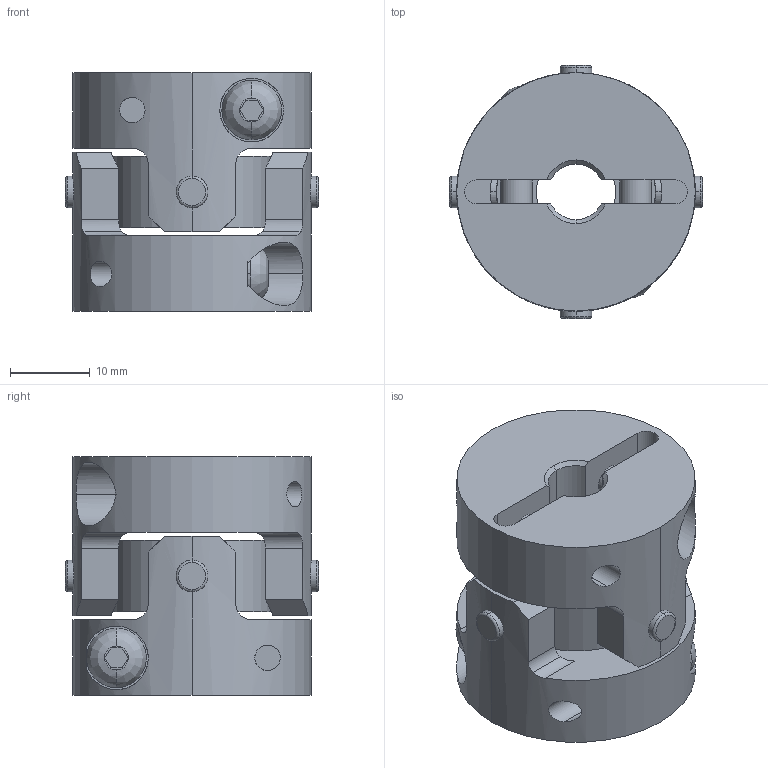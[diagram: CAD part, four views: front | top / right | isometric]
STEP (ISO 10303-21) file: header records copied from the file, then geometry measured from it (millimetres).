
FILE_DESCRIPTION((''),'2;1');
FILE_NAME('UA-30C-7×14.stp','2013-05-21T15:02:37',(''),(''),'AutoCAD STEP 2000i','AutoCAD 2000i',', , ');
FILE_SCHEMA(('CONFIG_CONTROL_DESIGN'));
Length unit declared in the file: millimetre
Products named in the file (7): UA-30C-6×11; 忣兜1; UA-3002-D11; BTN-M4; UA-3002-D06-1; UA-3002-D06; UA30-SEN
Assembly tree (8 placements, depth 3):
  UA-30C-6×11
    忣兜1
    UA-3002-D11
      BTN-M4
    UA-3002-D06-1
      BTN-M4
    UA-3002-D06
      BTN-M4
    UA30-SEN
Bounding box: 31.82 x 31.82 x 30 mm (x, y, z)
Volume: 14131.9 mm3; surface area: 8649.5 mm2
Topology: 1 solids, 1 shells, 206 faces, 554 edges, 364 vertices
Faces by surface type: cylinder 96, plane 78, cone 16, bspline 8, torus 8
Entity records: 8477 total; most frequent: CARTESIAN_POINT 3141, ORIENTED_EDGE 1108, DIRECTION 1068, EDGE_CURVE 554, AXIS2_PLACEMENT_3D 411, VERTEX_POINT 364, VECTOR 246, LINE 246
